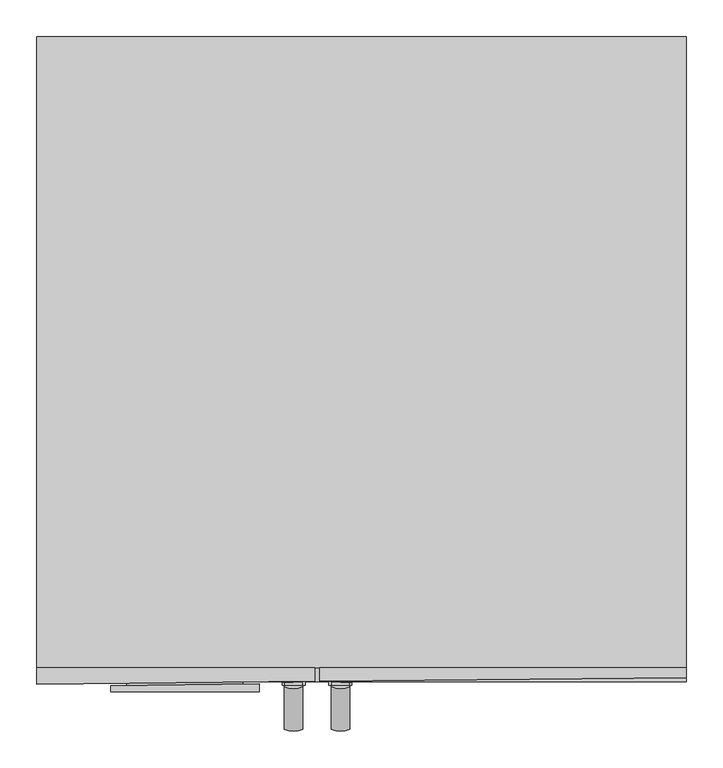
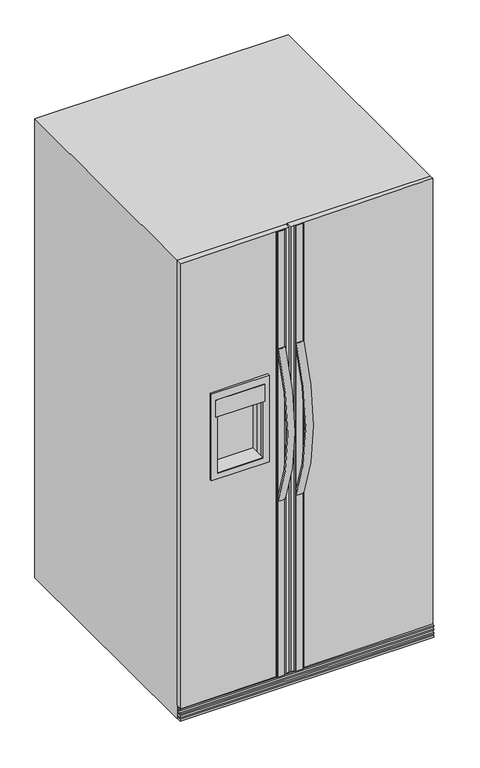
"""IFC4 building model written with IfcOpenShell, lengths in millimetres: proxy geometry, Refridgrator_with_Water_amp_Ice_Dispenser_7145 : Refridgrator_with_Water_amp_Ice_Dispenser_7145."""

from ifc_helpers import new_model, si_unit, point, frame, frame_2d, origin, place, context, project, spatial, polyline, circle_curve, ellipse_curve, trimmed, segment, composite_curve, outline, extrude, faceted_brep, source, transform, mapped, element, save
from ifc_brep_helpers import plane_surface, cylinder_surface, revolved_surface, advanced_brep


def mechanical_equipment_7a85856d(model_context):
    return source(origin(), model_context, "Body", "SolidModel", [
        extrude(outline(polyline([(288.2828351, -896.6925819), (116.8328351, -896.6925819), (116.8328351, -896.3814405), (288.2828351, -896.3814405), (288.2828351, -896.6925819)])), frame((0.0, 0.0, 1097.5639936), z_axis=(0.0, 0.0, 1.0), x_axis=(1.0, 0.0, 0.0)), (0.0, 0.0, 1.0), 63.5),
        extrude(outline(polyline([(281.9328351, -835.811361), (123.1828351, -835.811361), (123.1828351, -835.0360775), (281.9328351, -835.0360775), (281.9328351, -835.811361)])), frame((0.0, 0.0, 889.6014936), z_axis=(0.0, 0.0, 1.0), x_axis=(1.0, 0.0, 0.0)), (0.0, 0.0, 1.0), 207.9625),
        extrude(outline(polyline([(281.9328351, -896.3814405), (123.1828351, -896.3814405), (123.1828351, -835.0360775), (281.9328351, -835.0360775), (281.9328351, -896.3814405)])), frame((0.0, 0.0, 888.0139936), z_axis=(0.0, 0.0, 1.0), x_axis=(1.0, 0.0, 0.0)), (0.0, 0.0, 1.0), 1.5875),
        advanced_brep(
        [(304.7928319, -896.3814405, 1187.4138769), (304.7928319, -885.6537364, 1187.4138769), (101.6, -888.5821334, 1187.4138769), (101.6, -896.3814405, 1187.4138769), (304.7928319, -896.3814405, 866.6664911), (101.6, -896.3814405, 866.6664911), (101.6, -888.5821334, 866.6664911), (304.7928319, -885.6537364, 866.6664911), (123.1828351, -889.4601079, 888.0139936), (281.9328351, -887.2354347, 888.0139936), (281.9328351, -887.2354347, 1097.5639936), (123.1828351, -889.4601079, 1097.5639936), (281.9328351, -896.3814405, 888.0139936), (123.1828351, -896.3814405, 888.0139936), (123.1828351, -896.3814405, 1097.5639936), (281.9328351, -896.3814405, 1097.5639936)],
        [
            (0, 1),
            (1, 2, circle_curve(frame((179.4619965, 759.7434455, 1187.4138769), z_axis=(0.0, 0.0, -1.0), x_axis=(1.0, 0.0, 0.0)), 1650.1635388)),
            (2, 3),
            (3, 0),
            (4, 5),
            (5, 6),
            (6, 7, circle_curve(frame((179.4619965, 759.7434455, 866.6664911), z_axis=(0.0, 0.0, 1.0), x_axis=(1.0, 0.0, 0.0)), 1650.1635388)),
            (7, 4),
            (0, 4),
            (7, 1),
            (6, 2),
            (8, 9, circle_curve(frame((179.4619965, 759.7434455, 888.0139936), z_axis=(0.0, 0.0, 1.0), x_axis=(1.0, 0.0, 0.0)), 1650.1635388)),
            (9, 10),
            (10, 11, circle_curve(frame((179.4619965, 759.7434455, 1097.5639936), z_axis=(0.0, 0.0, -1.0), x_axis=(1.0, 0.0, 0.0)), 1650.1635388)),
            (11, 8),
            (5, 3),
            (12, 13),
            (13, 14),
            (14, 15),
            (15, 12),
            (12, 9),
            (8, 13),
            (11, 14),
            (10, 15),
        ],
        [
            plane_surface(frame((304.7928319, -888.6733672, 1187.4138769), z_axis=(0.0, 0.0, 1.0), x_axis=(0.0, 1.0, 0.0))),
            plane_surface(frame((304.7928319, -888.6733672, 866.6664911), z_axis=(0.0, 0.0, -1.0), x_axis=(0.0, -1.0, 0.0))),
            plane_surface(frame((304.7928319, -896.3814405, 1187.4138769), z_axis=(1.0, 0.0, 0.0), x_axis=(0.0, 0.0, -1.0))),
            revolved_surface(polyline([(1829.6255353, 759.7434455, 866.6664911), (1829.6255353, 759.7434455, 1187.4138769)]), (179.4619965, 759.7434455, 866.6664911), (0.0, 0.0, -1.0)),
            plane_surface(frame((101.6, -888.5821334, 1187.4138769), z_axis=(-1.0, 0.0, 0.0), x_axis=(0.0, 0.0, -1.0))),
            plane_surface(frame((101.6, -896.3814405, 1187.4138769), z_axis=(0.0, -1.0, 0.0), x_axis=(0.0, 0.0, -1.0))),
            plane_surface(frame((281.9328351, -835.0360775, 888.0139936), z_axis=(0.0, 0.0, 1.0), x_axis=(0.0, -1.0, 0.0))),
            plane_surface(frame((123.1828351, -835.0360775, 888.0139936), z_axis=(1.0, 0.0, 0.0), x_axis=(0.0, -1.0, 0.0))),
            plane_surface(frame((123.1828351, -835.0360775, 1097.5639936), z_axis=(0.0, 0.0, -1.0), x_axis=(0.0, -1.0, 0.0))),
            plane_surface(frame((281.9328351, -835.0360775, 1097.5639936), z_axis=(-1.0, 0.0, 0.0), x_axis=(0.0, -1.0, 0.0))),
        ],
        [
            (0, [[1, 2, 3, 4]]),
            (1, [[5, 6, 7, 8]]),
            (2, [[-1, 9, -8, 10]]),
            (3, [[-2, -10, -7, 11], [12, 13, 14, 15]]),
            (4, [[-3, -11, -6, 16]]),
            (5, [[-4, -16, -5, -9], [17, 18, 19, 20]]),
            (6, [[21, -12, 22, -17]]),
            (7, [[-22, -15, 23, -18]]),
            (8, [[-23, -14, 24, -19]]),
            (9, [[-21, -20, -24, -13]]),
        ],
    ),
        advanced_brep(
        [(889.0, -877.677311, 1701.8), (889.0, -863.6, 1701.8), (387.35, -863.6, 1701.8), (387.35, -882.4184672, 1701.8), (889.0, -877.677311, 50.8), (387.35, -882.4184672, 50.8), (387.35, -863.6, 50.8), (889.0, -863.6, 50.8)],
        [
            (0, 1),
            (1, 2),
            (2, 3),
            (3, 0, circle_curve(frame((609.6, 2143.4021149, 1701.8), z_axis=(0.0, 0.0, 1.0), x_axis=(1.0, 0.0, 0.0)), 3033.9718617)),
            (4, 5, circle_curve(frame((609.6, 2143.4021149, 50.8), z_axis=(0.0, 0.0, -1.0), x_axis=(1.0, 0.0, 0.0)), 3033.9718617)),
            (5, 6),
            (6, 7),
            (7, 4),
            (0, 4),
            (7, 1),
            (6, 2),
            (5, 3),
        ],
        [
            plane_surface(frame((889.0, -863.6, 1701.8), z_axis=(0.0, 0.0, 1.0), x_axis=(0.0, 1.0, 0.0))),
            plane_surface(frame((889.0, -863.6, 50.8), z_axis=(0.0, 0.0, -1.0), x_axis=(0.0, -1.0, 0.0))),
            plane_surface(frame((889.0, -877.677311, 1701.8), z_axis=(1.0, 0.0, 0.0), x_axis=(0.0, 0.0, -1.0))),
            plane_surface(frame((889.0, -863.6, 1701.8), z_axis=(0.0, 1.0, 0.0), x_axis=(0.0, 0.0, -1.0))),
            plane_surface(frame((387.35, -863.6, 1701.8), z_axis=(-1.0, 0.0, 0.0), x_axis=(0.0, 0.0, -1.0))),
            cylinder_surface(frame((609.6, 2143.4021149, 50.8), z_axis=(0.0, 0.0, 1.0), x_axis=(1.0, 0.0, 0.0)), 3033.9718617),
        ],
        [
            (0, [[1, 2, 3, 4]]),
            (1, [[5, 6, 7, 8]]),
            (2, [[-1, 9, -8, 10]]),
            (3, [[-2, -10, -7, 11]]),
            (4, [[-3, -11, -6, 12]]),
            (5, [[-4, -12, -5, -9]]),
        ],
    ),
        advanced_brep(
        [(0.0, -886.4136708, 1701.8), (381.0, -882.4184672, 1701.8), (381.0, -863.6, 1701.8), (0.0, -863.6, 1701.8), (0.0, -886.4136708, 50.8), (0.0, -863.6, 50.8), (381.0, -863.6, 50.8), (381.0, -882.4184672, 50.8), (281.9328351, -888.0680312, 888.0139936), (123.1828351, -890.3612632, 888.0139936), (123.1828351, -890.3612632, 1097.5639936), (281.9328351, -888.0680312, 1097.5639936), (123.1828351, -863.6, 888.0139936), (281.9328351, -863.6, 888.0139936), (281.9328351, -863.6, 1097.5639936), (123.1828351, -863.6, 1097.5639936)],
        [
            (0, 1, circle_curve(frame((158.75, 2143.4021149, 1701.8), z_axis=(0.0, 0.0, 1.0), x_axis=(1.0, 0.0, 0.0)), 3033.9718617)),
            (1, 2),
            (2, 3),
            (3, 0),
            (4, 5),
            (5, 6),
            (6, 7),
            (7, 4, circle_curve(frame((158.75, 2143.4021149, 50.8), z_axis=(0.0, 0.0, -1.0), x_axis=(1.0, 0.0, 0.0)), 3033.9718617)),
            (0, 4),
            (7, 1),
            (8, 9, circle_curve(frame((158.75, 2143.4021149, 888.0139936), z_axis=(0.0, 0.0, -1.0), x_axis=(1.0, 0.0, 0.0)), 3033.9718617)),
            (9, 10),
            (10, 11, circle_curve(frame((158.75, 2143.4021149, 1097.5639936), z_axis=(0.0, 0.0, 1.0), x_axis=(1.0, 0.0, 0.0)), 3033.9718617)),
            (11, 8),
            (6, 2),
            (5, 3),
            (12, 13),
            (13, 14),
            (14, 15),
            (15, 12),
            (8, 13),
            (12, 9),
            (15, 10),
            (14, 11),
        ],
        [
            plane_surface(frame((889.0, -863.6, 1701.8), z_axis=(0.0, 0.0, 1.0), x_axis=(0.0, 1.0, 0.0))),
            plane_surface(frame((889.0, -863.6, 50.8), z_axis=(0.0, 0.0, -1.0), x_axis=(0.0, -1.0, 0.0))),
            cylinder_surface(frame((158.75, 2143.4021149, 0.0), z_axis=(0.0, 0.0, 1.0), x_axis=(1.0, 0.0, 0.0)), 3033.9718617),
            plane_surface(frame((381.0, -882.4184672, 1701.8), z_axis=(1.0, -1.0213845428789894e-12, 0.0), x_axis=(0.0, 0.0, -1.0))),
            plane_surface(frame((381.0, -863.6, 1701.8), z_axis=(0.0, 1.0, 0.0), x_axis=(0.0, 0.0, -1.0))),
            plane_surface(frame((0.0, -863.6, 1701.8), z_axis=(-1.0, 0.0, 0.0), x_axis=(0.0, 0.0, -1.0))),
            plane_surface(frame((281.9328351, -835.0360775, 888.0139936), z_axis=(0.0, 0.0, 1.0), x_axis=(0.0, -1.0, 0.0))),
            plane_surface(frame((123.1828351, -835.0360775, 888.0139936), z_axis=(1.0, 0.0, 0.0), x_axis=(0.0, -1.0, 0.0))),
            plane_surface(frame((123.1828351, -835.0360775, 1097.5639936), z_axis=(0.0, 0.0, -1.0), x_axis=(0.0, -1.0, 0.0))),
            plane_surface(frame((281.9328351, -835.0360775, 1097.5639936), z_axis=(-1.0, 0.0, 0.0), x_axis=(0.0, -1.0, 0.0))),
        ],
        [
            (0, [[1, 2, 3, 4]]),
            (1, [[5, 6, 7, 8]]),
            (2, [[-1, 9, -8, 10], [11, 12, 13, 14]]),
            (3, [[-2, -10, -7, 15]]),
            (4, [[-3, -15, -6, 16], [17, 18, 19, 20]]),
            (5, [[-4, -16, -5, -9]]),
            (6, [[21, -17, 22, -11]]),
            (7, [[-22, -20, 23, -12]]),
            (8, [[-23, -19, 24, -13]]),
            (9, [[-21, -14, -24, -18]]),
        ],
    ),
        faceted_brep([(889.0, -863.6, 0.0), (889.0, -863.6, 1701.8), (0.0, -863.6, 1701.8), (0.0, -863.6, 0.0), (281.9328351, -863.6, 888.0139936), (123.1828351, -863.6, 888.0139936), (123.1828351, -863.6, 1097.5639936), (281.9328351, -863.6, 1097.5639936), (889.0, 0.0, 0.0), (0.0, 0.0, 0.0), (0.0, 0.0, 1701.8), (889.0, 0.0, 1701.8), (281.9328351, -835.0360775, 888.0139936), (281.9328351, -835.0360775, 1097.5639936), (123.1828351, -835.0360775, 1097.5639936), (123.1828351, -835.0360775, 888.0139936)], [[[0, 1, 2, 3], [4, 5, 6, 7]], [[8, 9, 10, 11]], [[1, 0, 8, 11]], [[2, 1, 11, 10]], [[3, 2, 10, 9]], [[0, 3, 9, 8]], [[12, 13, 14, 15]], [[12, 15, 5, 4]], [[15, 14, 6, 5]], [[14, 13, 7, 6]], [[13, 12, 4, 7]]]),
        extrude(outline(polyline([(336.2358258, -887.517192), (336.2358258, -884.3235259), (339.1594894, -884.1599471), (339.1594894, -887.517192), (336.2358258, -887.517192)])), frame((0.0, 0.0, 50.8), z_axis=(0.0, 0.0, 1.0), x_axis=(1.0, 0.0, 0.0)), (0.0, 0.0, 1.0), 1651.0),
        extrude(outline(polyline([(364.5594894, -887.517192), (364.5594894, -883.0687715), (367.483153, -882.9839021), (367.483153, -887.517192), (364.5594894, -887.517192)])), frame((0.0, 0.0, 50.8), z_axis=(0.0, 0.0, 1.0), x_axis=(1.0, 0.0, 0.0)), (0.0, 0.0, 1.0), 1651.0),
        extrude(outline(polyline([(431.380028, -887.517192), (428.4563644, -887.517192), (428.4563644, -884.1599471), (431.380028, -884.3235259), (431.380028, -887.517192)])), frame((0.0, 0.0, 50.8), z_axis=(0.0, 0.0, 1.0), x_axis=(1.0, 0.0, 0.0)), (0.0, 0.0, 1.0), 1651.0),
        extrude(outline(polyline([(403.0563644, -887.517192), (400.1327008, -887.517192), (400.1327008, -882.9839021), (403.0563644, -883.0687715), (403.0563644, -887.517192)])), frame((0.0, 0.0, 50.8), z_axis=(0.0, 0.0, 1.0), x_axis=(1.0, 0.0, 0.0)), (0.0, 0.0, 1.0), 1651.0),
        extrude(outline(composite_curve([segment(trimmed(circle_curve(frame_2d((479.3082181, 383.9175009)), 1269.2787557), [point((403.0563644, -883.0687715))], [point((428.4563644, -884.342192))], True, "CARTESIAN"), True, "CONTINUOUS"), segment(polyline([(428.4563644, -884.342192), (428.4563644, -887.517192), (403.0563644, -887.517192), (403.0563644, -883.0687715)]), True, "CONTINUOUS")], self_intersect=False)), frame((0.0, 0.0, 50.8), z_axis=(0.0, 0.0, 1.0), x_axis=(1.0, 0.0, 0.0)), (0.0, 0.0, 1.0), 1651.0),
        extrude(outline(composite_curve([segment(polyline([(364.5594894, -883.0687715), (364.5594894, -887.517192), (339.1594894, -887.517192), (339.1594894, -884.342192)]), True, "CONTINUOUS"), segment(trimmed(circle_curve(frame_2d((288.3076357, 383.9175009)), 1269.2787557), [point((339.1594894, -884.342192))], [point((364.5594894, -883.0687715))], True, "CARTESIAN"), True, "CONTINUOUS")], self_intersect=False)), frame((0.0, 0.0, 50.8), z_axis=(0.0, 0.0, 1.0), x_axis=(1.0, 0.0, 0.0)), (0.0, 0.0, 1.0), 1651.0),
        advanced_brep(
        [(364.5594894, -884.1508103, 709.0022793), (364.5594894, -889.9803796, 706.4846174), (339.1594894, -889.9803796, 706.4846174), (339.1594894, -884.1508103, 709.0022793), (364.5594894, -884.1508103, 1265.8477207), (339.1594894, -884.1508103, 1265.8477207), (339.1594894, -889.9803796, 1268.3653826), (364.5594894, -889.9803796, 1268.3653826)],
        [
            (0, 1),
            (1, 2, circle_curve(frame((351.8594894, -862.9663598, 718.1513746), z_axis=(0.0, 0.3964821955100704, -0.9180424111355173), x_axis=(1.0, 0.0, 0.0)), 32.0493446)),
            (2, 3),
            (3, 0),
            (4, 5),
            (5, 6),
            (6, 7, circle_curve(frame((351.8594894, -862.9663598, 1256.6986254), z_axis=(0.0, 0.3964821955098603, 0.918042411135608), x_axis=(1.0, 0.0, 0.0)), 32.0493446)),
            (7, 4),
            (7, 1, circle_curve(frame((364.5594894, -239.4715065, 987.425), z_axis=(1.0, 0.0, 0.0), x_axis=(0.0, -0.9180424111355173, -0.3964821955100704)), 708.5825941)),
            (0, 4, circle_curve(frame((364.5594894, -239.4715065, 987.425), z_axis=(-1.0, 0.0, 0.0), x_axis=(0.0, -0.9180424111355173, -0.3964821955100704)), 702.2325941)),
            (6, 2, circle_curve(frame((339.1594894, -239.4715065, 987.425), z_axis=(1.0, 0.0, 0.0), x_axis=(0.0, -0.9180424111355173, -0.3964821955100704)), 708.5825941)),
            (5, 3, circle_curve(frame((339.1594894, -239.4715065, 987.425), z_axis=(1.0, 0.0, 0.0), x_axis=(0.0, -0.9180424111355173, -0.3964821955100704)), 702.2325941)),
        ],
        [
            plane_surface(frame((352.028125, -892.3832693, 705.4468626), z_axis=(0.0, 0.3964821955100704, -0.9180424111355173), x_axis=(1.0, 0.0, 0.0))),
            plane_surface(frame((352.028125, -892.3832693, 1269.4031374), z_axis=(0.0, 0.39648219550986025, 0.9180424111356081), x_axis=(1.0, 0.0, 0.0))),
            plane_surface(frame((364.5594894, -239.4715065, 987.425), z_axis=(1.0, 0.0, 0.0), x_axis=(0.0, -0.9180424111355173, -0.3964821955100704))),
            revolved_surface(trimmed(ellipse_curve(frame((351.8594894, -862.9663598, 718.1513746), z_axis=(0.0, 0.3964821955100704, -0.9180424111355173), x_axis=(1.0, 0.0, 0.0)), 32.0493446, 32.0493446), [point((364.5594894, -889.9803796, 706.4846174))], [point((339.1594894, -889.9803796, 706.4846174))], True, "CARTESIAN"), (352.028125, -239.4715065, 987.425), (-1.0, 0.0, 0.0)),
            plane_surface(frame((339.1594894, -239.4715065, 987.425), z_axis=(-1.0, 0.0, 0.0), x_axis=(0.0, -0.9180424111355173, -0.3964821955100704))),
            revolved_surface(polyline([(339.1594894, -884.1508103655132, 709.0022793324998), (364.5594894, -884.1508103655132, 709.0022793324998)]), (352.028125, -239.4715065, 987.425), (-1.0, 0.0, 0.0)),
        ],
        [
            (0, [[1, 2, 3, 4]]),
            (1, [[5, 6, 7, 8]]),
            (2, [[9, -1, 10, -8]]),
            (3, [[11, -2, -9, -7]]),
            (4, [[12, -3, -11, -6]]),
            (5, [[-10, -4, -12, -5]]),
        ],
    ),
        advanced_brep(
        [(428.4563644, -884.1508103, 709.0022793), (428.4563644, -889.9803796, 706.4846174), (403.0563644, -889.9803796, 706.4846174), (403.0563644, -884.1508103, 709.0022793), (428.4563644, -884.1508103, 1265.8477207), (403.0563644, -884.1508103, 1265.8477207), (403.0563644, -889.9803796, 1268.3653826), (428.4563644, -889.9803796, 1268.3653826)],
        [
            (0, 1),
            (1, 2, circle_curve(frame((415.7563644, -862.9663598, 718.1513746), z_axis=(0.0, 0.3964821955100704, -0.9180424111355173), x_axis=(1.0, 0.0, 0.0)), 32.0493446)),
            (2, 3),
            (3, 0),
            (4, 5),
            (5, 6),
            (6, 7, circle_curve(frame((415.7563644, -862.9663598, 1256.6986254), z_axis=(0.0, 0.3964821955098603, 0.918042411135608), x_axis=(1.0, 0.0, 0.0)), 32.0493446)),
            (7, 4),
            (7, 1, circle_curve(frame((428.4563644, -239.4715065, 987.425), z_axis=(1.0, 0.0, 0.0), x_axis=(0.0, -0.9180424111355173, -0.3964821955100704)), 708.5825941)),
            (0, 4, circle_curve(frame((428.4563644, -239.4715065, 987.425), z_axis=(-1.0, 0.0, 0.0), x_axis=(0.0, -0.9180424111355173, -0.3964821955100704)), 702.2325941)),
            (6, 2, circle_curve(frame((403.0563644, -239.4715065, 987.425), z_axis=(1.0, 0.0, 0.0), x_axis=(0.0, -0.9180424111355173, -0.3964821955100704)), 708.5825941)),
            (5, 3, circle_curve(frame((403.0563644, -239.4715065, 987.425), z_axis=(1.0, 0.0, 0.0), x_axis=(0.0, -0.9180424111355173, -0.3964821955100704)), 702.2325941)),
        ],
        [
            plane_surface(frame((415.925, -892.3832693, 705.4468626), z_axis=(0.0, 0.3964821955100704, -0.9180424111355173), x_axis=(1.0, 0.0, 0.0))),
            plane_surface(frame((415.925, -892.3832693, 1269.4031374), z_axis=(0.0, 0.39648219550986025, 0.9180424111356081), x_axis=(1.0, 0.0, 0.0))),
            plane_surface(frame((428.4563644, -239.4715065, 987.425), z_axis=(1.0, 0.0, 0.0), x_axis=(0.0, -0.9180424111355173, -0.3964821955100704))),
            revolved_surface(trimmed(ellipse_curve(frame((415.7563644, -862.9663598, 718.1513746), z_axis=(0.0, 0.3964821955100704, -0.9180424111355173), x_axis=(1.0, 0.0, 0.0)), 32.0493446, 32.0493446), [point((428.4563644, -889.9803796, 706.4846174))], [point((403.0563644, -889.9803796, 706.4846174))], True, "CARTESIAN"), (415.925, -239.4715065, 987.425), (-1.0, 0.0, 0.0)),
            plane_surface(frame((403.0563644, -239.4715065, 987.425), z_axis=(-1.0, 0.0, 0.0), x_axis=(0.0, -0.9180424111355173, -0.3964821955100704))),
            revolved_surface(polyline([(403.0563644, -884.1508103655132, 709.0022793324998), (428.4563644, -884.1508103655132, 709.0022793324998)]), (415.925, -239.4715065, 987.425), (-1.0, 0.0, 0.0)),
        ],
        [
            (0, [[1, 2, 3, 4]]),
            (1, [[5, 6, 7, 8]]),
            (2, [[9, -1, 10, -8]]),
            (3, [[11, -2, -9, -7]]),
            (4, [[12, -3, -11, -6]]),
            (5, [[-10, -4, -12, -5]]),
        ],
    ),
        extrude(outline(polyline([(889.0, -882.4184672), (0.0, -882.4184672), (0.0, -863.6), (889.0, -863.6), (889.0, -882.4184672)])), frame((0.0, 0.0, 3.175), z_axis=(0.0, 0.0, 1.0), x_axis=(1.0, 0.0, 0.0)), (0.0, 0.0, 1.0), 6.35),
        extrude(outline(polyline([(889.0, -882.4184672), (0.0, -882.4184672), (0.0, -863.6), (889.0, -863.6), (889.0, -882.4184672)])), frame((0.0, 0.0, 15.875), z_axis=(0.0, 0.0, 1.0), x_axis=(1.0, 0.0, 0.0)), (0.0, 0.0, 1.0), 6.35),
        extrude(outline(polyline([(889.0, -882.4184672), (0.0, -882.4184672), (0.0, -863.6), (889.0, -863.6), (889.0, -882.4184672)])), frame((0.0, 0.0, 28.575), z_axis=(0.0, 0.0, 1.0), x_axis=(1.0, 0.0, 0.0)), (0.0, 0.0, 1.0), 6.35),
        extrude(outline(polyline([(889.0, -882.4184672), (0.0, -882.4184672), (0.0, -863.6), (889.0, -863.6), (889.0, -882.4184672)])), frame((0.0, 0.0, 41.275), z_axis=(0.0, 0.0, 1.0), x_axis=(1.0, 0.0, 0.0)), (0.0, 0.0, 1.0), 6.35),
    ])


if __name__ == "__main__":
    model = new_model("IFC4")
    model_context = context("Model", 3, world=origin())
    ifc_project = project(units=[si_unit("LENGTHUNIT", "METRE", prefix="MILLI")], contexts=[model_context])
    site = spatial("IfcSite", under=ifc_project)
    building = spatial("IfcBuilding", under=site)
    placement = place(None, origin())
    mechanical_equipment_shape = mechanical_equipment_7a85856d(model_context)
    element("IfcBuildingElementProxy", 1, Name="Refridgrator_with_Water_amp_Ice_Dispenser_7145 : Refridgrator_with_Water_amp_Ice_Dispenser_7145", ObjectType="Refridgrator_with_Water_amp_Ice_Dispenser_7145 : Refridgrator_with_Water_amp_Ice_Dispenser_7145", at=placement, inside=building, context=model_context, shape_type="MappedRepresentation", body=[
        mapped(mechanical_equipment_shape, transform((0.0, 0.0, 0.0), x_axis=(1.0, 0.0, 0.0), y_axis=(0.0, 1.0, 0.0), z_axis=(0.0, 0.0, 1.0))),
    ])
    save(model, "model.ifc")
